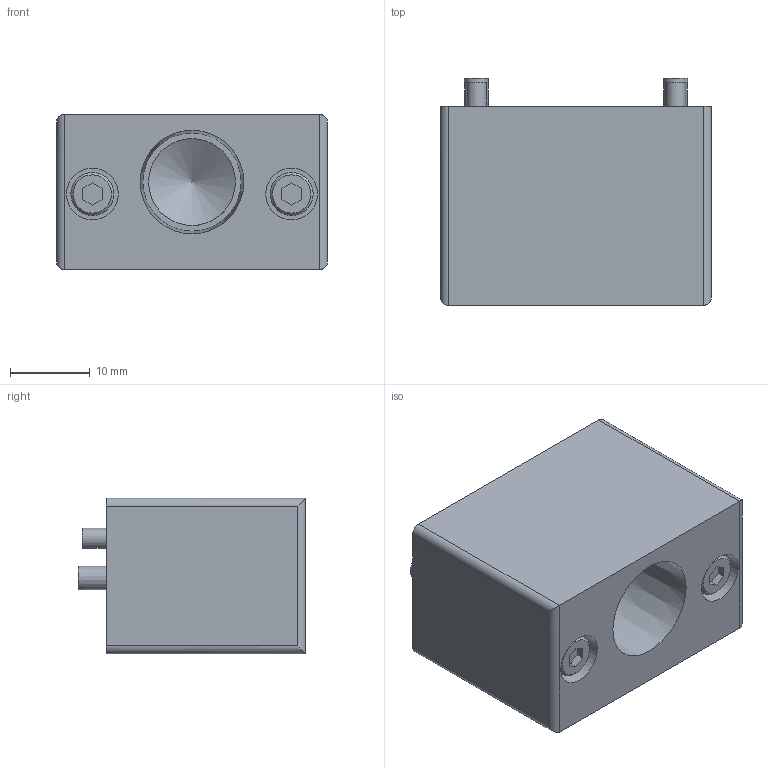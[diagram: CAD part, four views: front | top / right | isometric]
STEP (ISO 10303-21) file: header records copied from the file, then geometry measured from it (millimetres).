
FILE_DESCRIPTION(('STEP AP214'),'1');
FILE_NAME('KHF-12RS-EP81_ver1.stp','2026-04-27T00:22:26',(' '),(' '),'Spatial InterOp 3D',' ',' ');
FILE_SCHEMA(('AUTOMOTIVE_DESIGN { 1 0 10303 214 1 1 1 1 }'));
Length unit declared in the file: millimetre
Products named in the file (1): KHF-12RS-EP81_ver1
Bounding box: 34 x 28.5 x 19.5 mm (x, y, z)
Volume: 13793.7 mm3; surface area: 5981.8 mm2
Topology: 1 solids, 3 shells, 61 faces, 125 edges, 82 vertices
Faces by surface type: plane 35, cylinder 20, cone 6
Full cylindrical faces by diameter (mm): 2.5 x4, 3 x2, 3.5 x2, 5.41 x2, 6.5 x2, 9 x1, 10.9 x1
Entity records: 2020 total; most frequent: CARTESIAN_POINT 316, DIRECTION 260, ORIENTED_EDGE 192, AXIS2_PLACEMENT_3D 103, EDGE_LOOP 96, EDGE_CURVE 96, FACE_OUTER_BOUND 75, VERTEX_POINT 75
